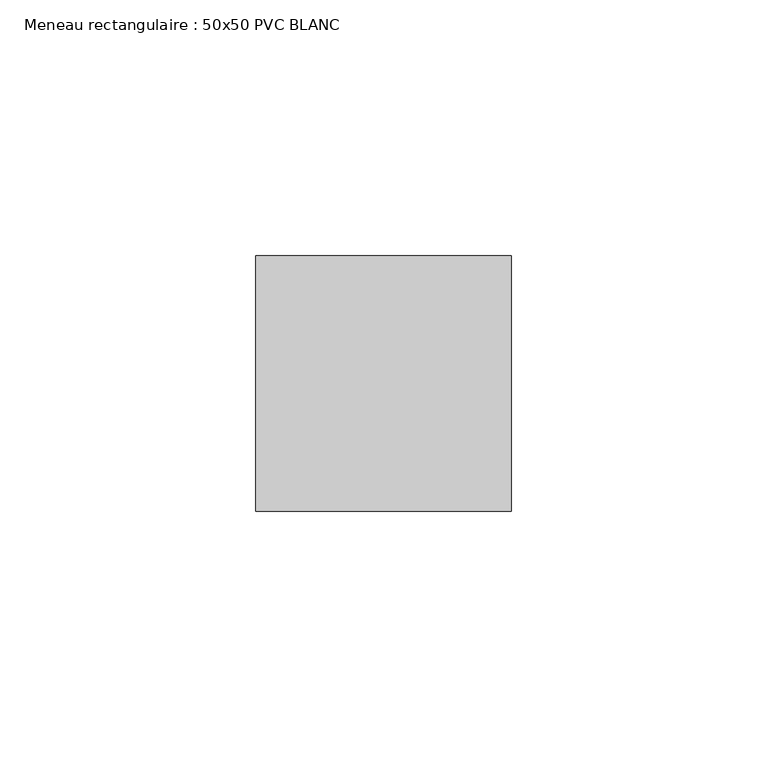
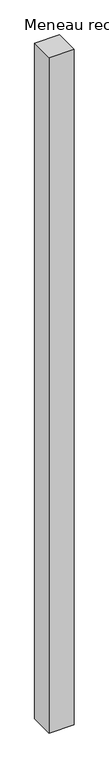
"""IFC4 building model written with IfcOpenShell, lengths in millimetres: member geometry, Meneau rectangulaire : 50x50 PVC BLANC."""

from ifc_helpers import new_model, si_unit, frame, origin, place, context, project, spatial, polyline, outline, extrude, source, transform, mapped, element, save


def meneau_rectangulaire_50x50_pvc_blanc_d567d669(model_context):
    return source(origin(), model_context, "Body", "SweptSolid", [
        extrude(outline(polyline([(0.0, 0.0), (0.0, -50.0), (-50.0, -50.0), (-50.0, 0.0), (0.0, 0.0)])), frame((0.0, 0.0, -1429.2667148), z_axis=(0.0, 0.0, 1.0), x_axis=(1.0, 0.0, 0.0)), (0.0, 0.0, 1.0), 1429.2667148),
    ])


if __name__ == "__main__":
    model = new_model("IFC4")
    model_context = context("Model", 3, world=origin())
    ifc_project = project(units=[si_unit("LENGTHUNIT", "METRE", prefix="MILLI")], contexts=[model_context])
    site = spatial("IfcSite", under=ifc_project)
    building = spatial("IfcBuilding", under=site)
    placement = place(None, origin())
    meneau_rectangulaire_50x50_pvc_blanc_shape = meneau_rectangulaire_50x50_pvc_blanc_d567d669(model_context)
    element("IfcMember", 1, ObjectType="Meneau rectangulaire : 50x50 PVC BLANC", at=placement, inside=building, context=model_context, shape_type="MappedRepresentation", body=[
        mapped(meneau_rectangulaire_50x50_pvc_blanc_shape, transform((0.0, 0.0, 0.0), x_axis=(1.0, 0.0, 0.0), y_axis=(0.0, 1.0, 0.0), z_axis=(0.0, 0.0, 1.0))),
    ])
    save(model, "model.ifc")
